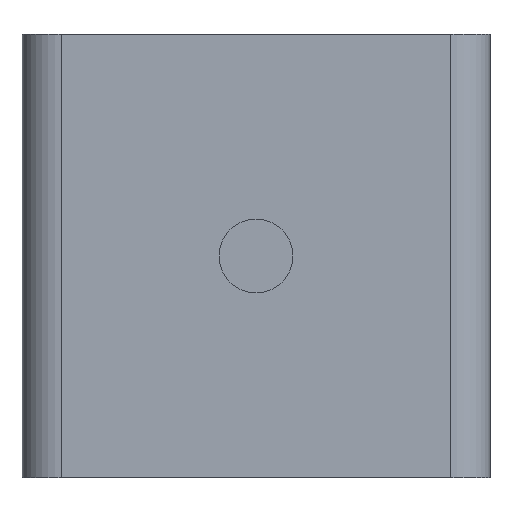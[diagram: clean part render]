
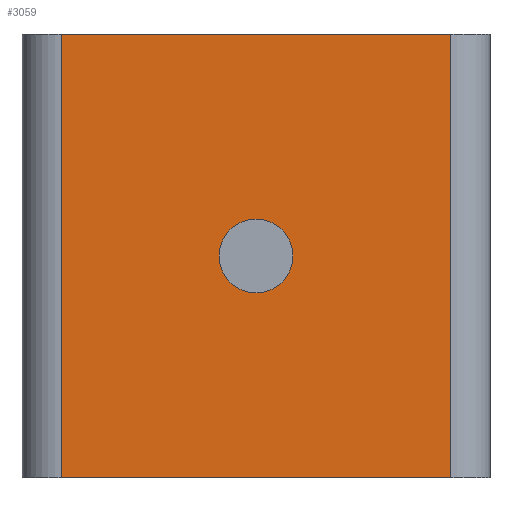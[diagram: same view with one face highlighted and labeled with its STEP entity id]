
A CAD part, front view. The second image highlights one B-rep face of the part: STEP entity #3059.
In plain terms, the highlighted planar face has unit normal (0, -1, 0).
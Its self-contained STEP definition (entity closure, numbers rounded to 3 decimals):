
#9 = ORIENTED_EDGE ( 'NONE', *, *, #623, .F. ) ;
#121 = LINE ( 'NONE', #207, #1755 ) ;
#207 = CARTESIAN_POINT ( 'NONE',  ( 0., -28., 0. ) ) ;
#404 = AXIS2_PLACEMENT_3D ( 'NONE', #456, #2876, #819 ) ;
#436 = DIRECTION ( 'NONE',  ( 0., -1., 0. ) ) ;
#456 = CARTESIAN_POINT ( 'NONE',  ( 0., -28., -9. ) ) ;
#491 = FACE_OUTER_BOUND ( 'NONE', #4084, .T. ) ;
#527 = DIRECTION ( 'NONE',  ( 0., 1., 0. ) ) ;
#587 = CARTESIAN_POINT ( 'NONE',  ( 7.9, -28., -9. ) ) ;
#623 = EDGE_CURVE ( 'NONE', #4080, #3552, #1508, .T. ) ;
#688 = EDGE_CURVE ( 'NONE', #2861, #2107, #3118, .T. ) ;
#721 = CARTESIAN_POINT ( 'NONE',  ( 7.9, -28., -18. ) ) ;
#800 = AXIS2_PLACEMENT_3D ( 'NONE', #2603, #527, #2941 ) ;
#819 = DIRECTION ( 'NONE',  ( -1., 0., 0. ) ) ;
#850 = VECTOR ( 'NONE', #3617, 1000. ) ;
#874 = PLANE ( 'NONE',  #800 ) ;
#883 = CARTESIAN_POINT ( 'NONE',  ( -7.9, -28., -9. ) ) ;
#944 = LINE ( 'NONE', #883, #850 ) ;
#1206 = EDGE_LOOP ( 'NONE', ( #9, #3598 ) ) ;
#1326 = CARTESIAN_POINT ( 'NONE',  ( -7.9, -28., 0. ) ) ;
#1406 = CIRCLE ( 'NONE', #1451, 1.5 ) ;
#1407 = FACE_BOUND ( 'NONE', #1206, .T. ) ;
#1451 = AXIS2_PLACEMENT_3D ( 'NONE', #2515, #436, #2855 ) ;
#1455 = EDGE_CURVE ( 'NONE', #2424, #2861, #944, .T. ) ;
#1508 = CIRCLE ( 'NONE', #404, 1.5 ) ;
#1531 = DIRECTION ( 'NONE',  ( 1., 0., 0. ) ) ;
#1693 = VECTOR ( 'NONE', #4005, 1000. ) ;
#1755 = VECTOR ( 'NONE', #1942, 1000. ) ;
#1942 = DIRECTION ( 'NONE',  ( -1., 0., 0. ) ) ;
#2012 = EDGE_CURVE ( 'NONE', #3260, #2424, #121, .T. ) ;
#2107 = VERTEX_POINT ( 'NONE', #721 ) ;
#2368 = CARTESIAN_POINT ( 'NONE',  ( 7.9, -28., 0. ) ) ;
#2424 = VERTEX_POINT ( 'NONE', #1326 ) ;
#2499 = CARTESIAN_POINT ( 'NONE',  ( -7.9, -28., -18. ) ) ;
#2515 = CARTESIAN_POINT ( 'NONE',  ( 0., -28., -9. ) ) ;
#2603 = CARTESIAN_POINT ( 'NONE',  ( 7.9, -28., 0. ) ) ;
#2640 = ORIENTED_EDGE ( 'NONE', *, *, #2012, .T. ) ;
#2855 = DIRECTION ( 'NONE',  ( -1., 0., 0. ) ) ;
#2861 = VERTEX_POINT ( 'NONE', #2499 ) ;
#2876 = DIRECTION ( 'NONE',  ( 0., -1., 0. ) ) ;
#2941 = DIRECTION ( 'NONE',  ( 0., 0., -1. ) ) ;
#3059 = ADVANCED_FACE ( 'NONE', ( #1407, #491 ), #874, .F. ) ;
#3118 = LINE ( 'NONE', #3578, #3911 ) ;
#3125 = ORIENTED_EDGE ( 'NONE', *, *, #688, .T. ) ;
#3151 = EDGE_CURVE ( 'NONE', #3260, #2107, #4325, .T. ) ;
#3260 = VERTEX_POINT ( 'NONE', #2368 ) ;
#3552 = VERTEX_POINT ( 'NONE', #3997 ) ;
#3562 = ORIENTED_EDGE ( 'NONE', *, *, #3151, .F. ) ;
#3578 = CARTESIAN_POINT ( 'NONE',  ( 0., -28., -18. ) ) ;
#3598 = ORIENTED_EDGE ( 'NONE', *, *, #3982, .F. ) ;
#3617 = DIRECTION ( 'NONE',  ( 0., 0., -1. ) ) ;
#3705 = ORIENTED_EDGE ( 'NONE', *, *, #1455, .T. ) ;
#3911 = VECTOR ( 'NONE', #1531, 1000. ) ;
#3982 = EDGE_CURVE ( 'NONE', #3552, #4080, #1406, .T. ) ;
#3997 = CARTESIAN_POINT ( 'NONE',  ( 1.5, -28., -9. ) ) ;
#4005 = DIRECTION ( 'NONE',  ( 0., 0., -1. ) ) ;
#4080 = VERTEX_POINT ( 'NONE', #4266 ) ;
#4084 = EDGE_LOOP ( 'NONE', ( #2640, #3705, #3125, #3562 ) ) ;
#4266 = CARTESIAN_POINT ( 'NONE',  ( -1.5, -28., -9. ) ) ;
#4325 = LINE ( 'NONE', #587, #1693 ) ;
